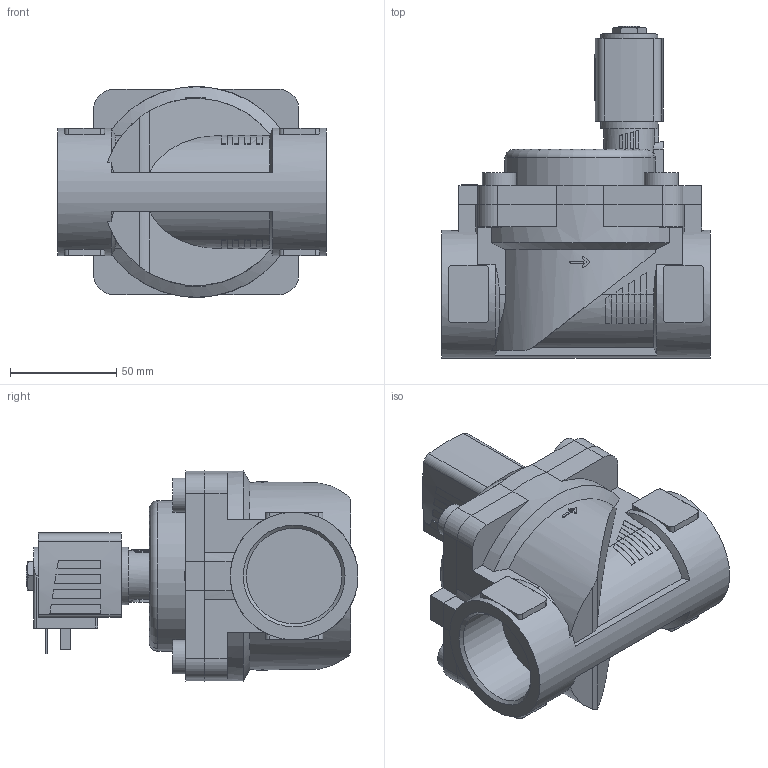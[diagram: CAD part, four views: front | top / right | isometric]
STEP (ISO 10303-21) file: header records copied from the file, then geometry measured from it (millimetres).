
FILE_DESCRIPTION(/* description */ ('STEP AP214'),/* implementation_level */ '2;1');
FILE_NAME(/* name */ '6281-356564-2_2-Way_Solenoid_Valve__Servo-assisted__General_Purpose',/* time_stamp */ '2024-09-04T15:53:47+02:00',/* author */ ('License CC BY-ND 4.0'),/* organization */ ('CADENAS'),/* preprocessor_version */ 'ST-DEVELOPER v19.3',/* originating_system */ 'PARTsolutions',/* authorisation */ ' ');
FILE_SCHEMA (('AUTOMOTIVE_DESIGN {1 0 10303 214 3 1 1}'));
Length unit declared in the file: millimetre
Products named in the file (4): 6281-356564-2/2-Way Solenoid Valve, Servo-assisted, General Purpose; 5281ev400VA2/2-Wege-Magnetventil mit Servomembran-Deckel 99 ; 6213-40G1_1/2VA-Gehaeuse-; AC10ex-5NA38-Plan-Coil
Assembly tree (3 placements, depth 2):
  6281-356564-2/2-Way Solenoid Valve, Servo-assisted, General Purpose
    5281ev400VA2/2-Wege-Magnetventil mit Servomembran-Deckel 99 
    6213-40G1_1/2VA-Gehaeuse-
    AC10ex-5NA38-Plan-Coil
Bounding box: 126 x 156 x 99 mm (x, y, z)
Volume: 681980.7 mm3; surface area: 92569.6 mm2
Topology: 3 solids, 3 shells, 357 faces, 932 edges, 616 vertices
Faces by surface type: plane 244, cylinder 95, cone 17, torus 1
Full cylindrical faces by diameter (mm): 2.013 x1, 9.74 x1, 16 x4, 27 x1, 44.845 x2, 60 x1
Entity records: 12254 total; most frequent: CARTESIAN_POINT 2174, ORIENTED_EDGE 1816, DIRECTION 1804, EDGE_CURVE 908, AXIS2_PLACEMENT_3D 614, VERTEX_POINT 608, LINE 576, VECTOR 576
